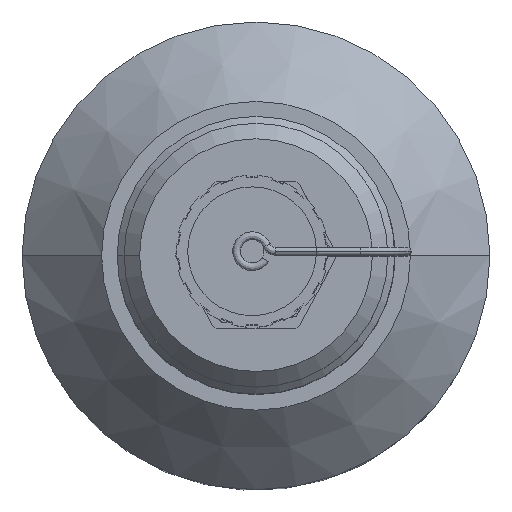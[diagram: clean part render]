
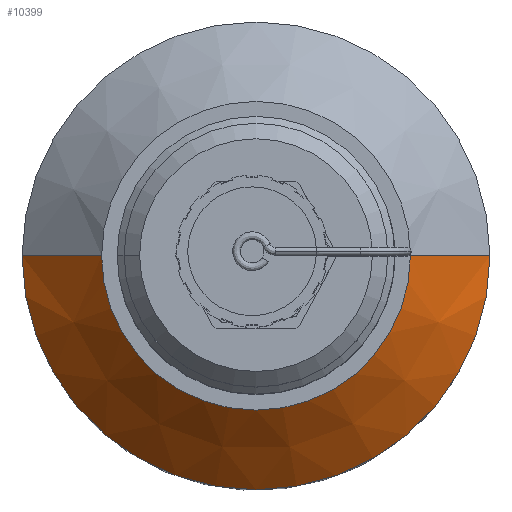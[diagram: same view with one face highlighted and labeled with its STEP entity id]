
A CAD part, top view. The second image highlights one B-rep face of the part: STEP entity #10399.
In plain terms, the highlighted conical face has half-angle 45 degrees and reference radius 30.15 mm.
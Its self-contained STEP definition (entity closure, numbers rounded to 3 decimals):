
#2266 = AXIS2_PLACEMENT_3D ( 'NONE', #5232, #5233, #5234 ) ;
#2267 = AXIS2_PLACEMENT_3D ( 'NONE', #5235, #5236, #5237 ) ;
#4364 = DIRECTION ( 'NONE',  ( 0.707, 0., -0.707 ) ) ;
#4369 = DIRECTION ( 'NONE',  ( -0.707, 0., -0.707 ) ) ;
#4370 = CARTESIAN_POINT ( 'NONE',  ( 30.15, 0., 4. ) ) ;
#4375 = CARTESIAN_POINT ( 'NONE',  ( -30.15, 0., 4. ) ) ;
#4645 = LINE ( 'NONE', #4370, #4650 ) ;
#4648 = LINE ( 'NONE', #4375, #4653 ) ;
#4650 = VECTOR ( 'NONE', #4364, 1000. ) ;
#4653 = VECTOR ( 'NONE', #4369, 1000. ) ;
#4684 = CIRCLE ( 'NONE', #2266, 30.15 ) ;
#4685 = CIRCLE ( 'NONE', #2267, 19.9 ) ;
#5232 = CARTESIAN_POINT ( 'NONE',  ( 0., 0., 4. ) ) ;
#5233 = DIRECTION ( 'NONE',  ( 0., 0., -1. ) ) ;
#5234 = DIRECTION ( 'NONE',  ( -1., 0., 0. ) ) ;
#5235 = CARTESIAN_POINT ( 'NONE',  ( 0., 0., 14.25 ) ) ;
#5236 = DIRECTION ( 'NONE',  ( 0., 0., -1. ) ) ;
#5237 = DIRECTION ( 'NONE',  ( -1., 0., 0. ) ) ;
#8111 = VERTEX_POINT ( 'NONE', #18817 ) ;
#8124 = VERTEX_POINT ( 'NONE', #18830 ) ;
#8126 = VERTEX_POINT ( 'NONE', #18832 ) ;
#8127 = VERTEX_POINT ( 'NONE', #18833 ) ;
#10399 = ADVANCED_FACE ( 'NONE', ( #24808 ), #24821, .T. ) ;
#11678 = EDGE_LOOP ( 'NONE', ( #12887, #12888, #12889, #12890 ) ) ;
#12887 = ORIENTED_EDGE ( 'NONE', *, *, #13636, .F. ) ;
#12888 = ORIENTED_EDGE ( 'NONE', *, *, #13663, .T. ) ;
#12889 = ORIENTED_EDGE ( 'NONE', *, *, #13638, .T. ) ;
#12890 = ORIENTED_EDGE ( 'NONE', *, *, #13662, .F. ) ;
#13636 = EDGE_CURVE ( 'NONE', #8124, #8127, #4645, .T. ) ;
#13638 = EDGE_CURVE ( 'NONE', #8111, #8126, #4648, .T. ) ;
#13662 = EDGE_CURVE ( 'NONE', #8127, #8126, #4684, .T. ) ;
#13663 = EDGE_CURVE ( 'NONE', #8124, #8111, #4685, .T. ) ;
#18817 = CARTESIAN_POINT ( 'NONE',  ( -19.9, 0., 14.25 ) ) ;
#18830 = CARTESIAN_POINT ( 'NONE',  ( 19.9, 0., 14.25 ) ) ;
#18832 = CARTESIAN_POINT ( 'NONE',  ( -30.15, 0., 4. ) ) ;
#18833 = CARTESIAN_POINT ( 'NONE',  ( 30.15, 0., 4. ) ) ;
#24808 = FACE_OUTER_BOUND ( 'NONE', #11678, .T. ) ;
#24821 = CONICAL_SURFACE ( 'NONE', #25426, 30.15, 0.785 ) ;
#25426 = AXIS2_PLACEMENT_3D ( 'NONE', #26653, #26654, #26652 ) ;
#26652 = DIRECTION ( 'NONE',  ( -1., 0., 0. ) ) ;
#26653 = CARTESIAN_POINT ( 'NONE',  ( 0., 0., 4. ) ) ;
#26654 = DIRECTION ( 'NONE',  ( 0., 0., -1. ) ) ;
